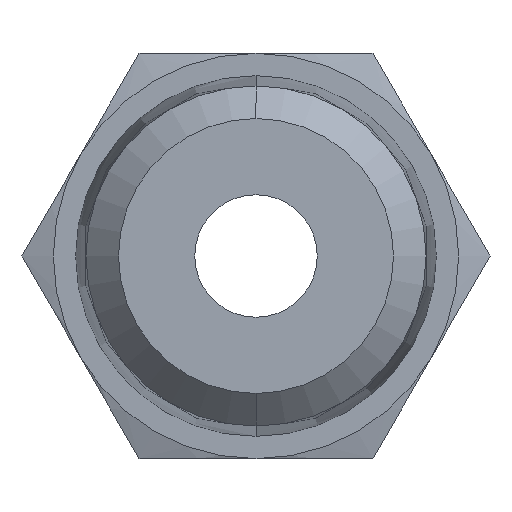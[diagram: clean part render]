
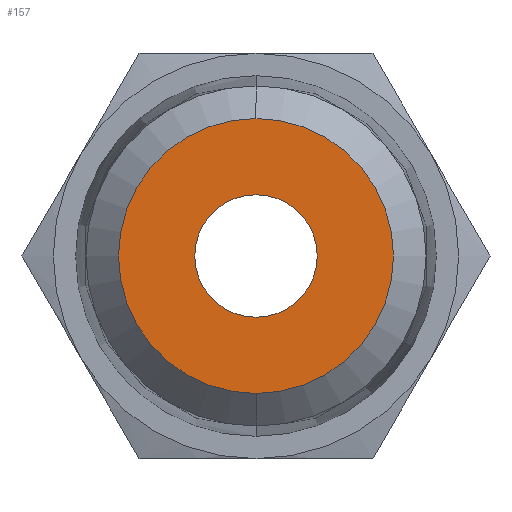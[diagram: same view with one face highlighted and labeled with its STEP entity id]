
A CAD part, left-side view. The second image highlights one B-rep face of the part: STEP entity #157.
In plain terms, the highlighted planar face has unit normal (-1, 0, 0).
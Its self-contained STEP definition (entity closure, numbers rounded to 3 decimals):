
#35 = EDGE_CURVE ( 'NONE', #453, #455, #494, .T. ) ;
#75 = EDGE_LOOP ( 'NONE', ( #76, #77 ) ) ;
#76 = ORIENTED_EDGE ( 'NONE', *, *, #454, .F. ) ;
#77 = ORIENTED_EDGE ( 'NONE', *, *, #35, .F. ) ;
#157 = ADVANCED_FACE ( 'NONE', ( #777, #776 ), #949, .T. ) ;
#158 = EDGE_LOOP ( 'NONE', ( #159, #161 ) ) ;
#159 = ORIENTED_EDGE ( 'NONE', *, *, #160, .T. ) ;
#160 = EDGE_CURVE ( 'NONE', #475, #481, #948, .T. ) ;
#161 = ORIENTED_EDGE ( 'NONE', *, *, #474, .T. ) ;
#453 = VERTEX_POINT ( 'NONE', #1307 ) ;
#454 = EDGE_CURVE ( 'NONE', #455, #453, #1306, .T. ) ;
#455 = VERTEX_POINT ( 'NONE', #1301 ) ;
#474 = EDGE_CURVE ( 'NONE', #481, #475, #1416, .T. ) ;
#475 = VERTEX_POINT ( 'NONE', #1471 ) ;
#481 = VERTEX_POINT ( 'NONE', #1409 ) ;
#490 = DIRECTION ( 'NONE',  ( 0., 0., 1. ) ) ;
#491 = DIRECTION ( 'NONE',  ( -1., 0., 0. ) ) ;
#492 = CARTESIAN_POINT ( 'NONE',  ( -14., 0., 0. ) ) ;
#493 = AXIS2_PLACEMENT_3D ( 'NONE', #492, #491, #490 ) ;
#494 = CIRCLE ( 'NONE', #493, 2.4 ) ;
#776 = FACE_BOUND ( 'NONE', #75, .T. ) ;
#777 = FACE_OUTER_BOUND ( 'NONE', #158, .T. ) ;
#940 = DIRECTION ( 'NONE',  ( 0., 0., 1. ) ) ;
#941 = DIRECTION ( 'NONE',  ( -1., 0., 0. ) ) ;
#942 = CARTESIAN_POINT ( 'NONE',  ( -14., 0., 0. ) ) ;
#943 = AXIS2_PLACEMENT_3D ( 'NONE', #942, #941, #940 ) ;
#944 = DIRECTION ( 'NONE',  ( 0., 0., 1. ) ) ;
#945 = DIRECTION ( 'NONE',  ( -1., 0., 0. ) ) ;
#946 = CARTESIAN_POINT ( 'NONE',  ( -14., 0., 0. ) ) ;
#947 = AXIS2_PLACEMENT_3D ( 'NONE', #946, #945, #944 ) ;
#948 = CIRCLE ( 'NONE', #943, 5.386 ) ;
#949 = PLANE ( 'NONE',  #947 ) ;
#1301 = CARTESIAN_POINT ( 'NONE',  ( -14., 0., -2.4 ) ) ;
#1302 = DIRECTION ( 'NONE',  ( 0., 0., 1. ) ) ;
#1303 = DIRECTION ( 'NONE',  ( -1., 0., 0. ) ) ;
#1304 = CARTESIAN_POINT ( 'NONE',  ( -14., 0., 0. ) ) ;
#1305 = AXIS2_PLACEMENT_3D ( 'NONE', #1304, #1303, #1302 ) ;
#1306 = CIRCLE ( 'NONE', #1305, 2.4 ) ;
#1307 = CARTESIAN_POINT ( 'NONE',  ( -14., 0., 2.4 ) ) ;
#1409 = CARTESIAN_POINT ( 'NONE',  ( -14., 0., 5.386 ) ) ;
#1414 = CARTESIAN_POINT ( 'NONE',  ( -14., 0., 0. ) ) ;
#1415 = AXIS2_PLACEMENT_3D ( 'NONE', #1414, #1473, #1472 ) ;
#1416 = CIRCLE ( 'NONE', #1415, 5.386 ) ;
#1471 = CARTESIAN_POINT ( 'NONE',  ( -14., 0., -5.386 ) ) ;
#1472 = DIRECTION ( 'NONE',  ( 0., 0., 1. ) ) ;
#1473 = DIRECTION ( 'NONE',  ( -1., 0., 0. ) ) ;
